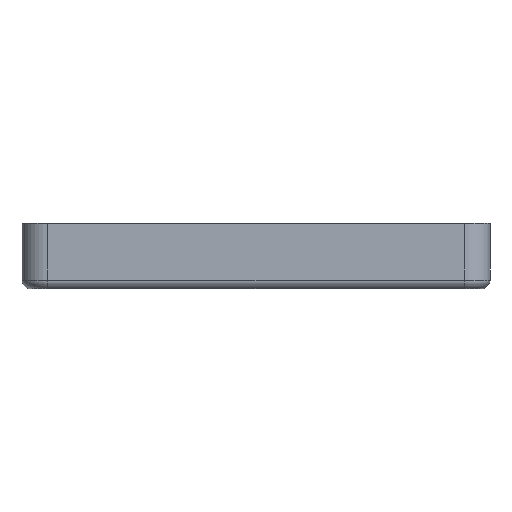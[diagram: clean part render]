
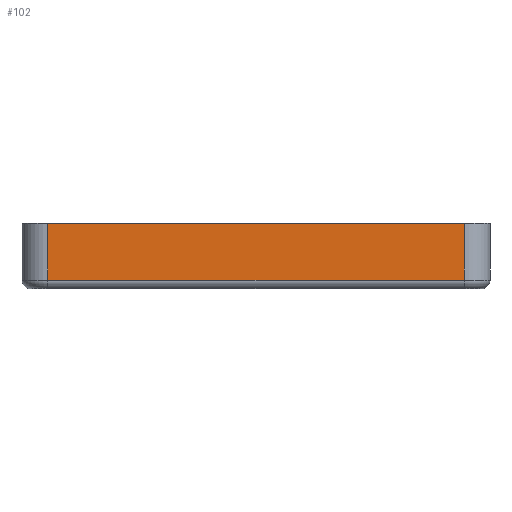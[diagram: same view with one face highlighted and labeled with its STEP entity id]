
A CAD part, left-side view. The second image highlights one B-rep face of the part: STEP entity #102.
In plain terms, the highlighted planar face has unit normal (-1, 0, 0).
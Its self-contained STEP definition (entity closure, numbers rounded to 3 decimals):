
#6 = VECTOR ( 'NONE', #347, 1000. ) ;
#78 = DIRECTION ( 'NONE',  ( 0., 0., -1. ) ) ;
#79 = VERTEX_POINT ( 'NONE', #1089 ) ;
#95 = CARTESIAN_POINT ( 'NONE',  ( -40.7, -14.56, 0.5 ) ) ;
#102 = ADVANCED_FACE ( 'NONE', ( #1275 ), #1065, .F. ) ;
#115 = CARTESIAN_POINT ( 'NONE',  ( -40.7, 9.54, 3.8 ) ) ;
#229 = VECTOR ( 'NONE', #619, 1000. ) ;
#236 = DIRECTION ( 'NONE',  ( 1., 0., 0. ) ) ;
#258 = EDGE_CURVE ( 'NONE', #337, #1438, #386, .T. ) ;
#304 = LINE ( 'NONE', #115, #6 ) ;
#307 = ORIENTED_EDGE ( 'NONE', *, *, #907, .T. ) ;
#337 = VERTEX_POINT ( 'NONE', #1289 ) ;
#347 = DIRECTION ( 'NONE',  ( 0., -1., 0. ) ) ;
#386 = LINE ( 'NONE', #582, #974 ) ;
#545 = ORIENTED_EDGE ( 'NONE', *, *, #1109, .T. ) ;
#550 = LINE ( 'NONE', #611, #229 ) ;
#556 = ORIENTED_EDGE ( 'NONE', *, *, #258, .F. ) ;
#582 = CARTESIAN_POINT ( 'NONE',  ( -40.7, -14.56, 3.8 ) ) ;
#611 = CARTESIAN_POINT ( 'NONE',  ( -40.7, -14.56, 0.5 ) ) ;
#619 = DIRECTION ( 'NONE',  ( 0., -1., 0. ) ) ;
#715 = EDGE_LOOP ( 'NONE', ( #307, #545, #556, #950 ) ) ;
#766 = VECTOR ( 'NONE', #1403, 1000. ) ;
#907 = EDGE_CURVE ( 'NONE', #79, #1490, #1004, .T. ) ;
#950 = ORIENTED_EDGE ( 'NONE', *, *, #1028, .F. ) ;
#967 = DIRECTION ( 'NONE',  ( 0., 0., -1. ) ) ;
#974 = VECTOR ( 'NONE', #78, 1000. ) ;
#1004 = LINE ( 'NONE', #1054, #766 ) ;
#1028 = EDGE_CURVE ( 'NONE', #79, #337, #304, .T. ) ;
#1054 = CARTESIAN_POINT ( 'NONE',  ( -40.7, 9.54, 3.8 ) ) ;
#1065 = PLANE ( 'NONE',  #1492 ) ;
#1089 = CARTESIAN_POINT ( 'NONE',  ( -40.7, 9.54, 3.8 ) ) ;
#1109 = EDGE_CURVE ( 'NONE', #1490, #1438, #550, .T. ) ;
#1275 = FACE_OUTER_BOUND ( 'NONE', #715, .T. ) ;
#1289 = CARTESIAN_POINT ( 'NONE',  ( -40.7, -14.56, 3.8 ) ) ;
#1318 = CARTESIAN_POINT ( 'NONE',  ( -40.7, 9.54, 3.8 ) ) ;
#1403 = DIRECTION ( 'NONE',  ( 0., 0., -1. ) ) ;
#1438 = VERTEX_POINT ( 'NONE', #95 ) ;
#1485 = CARTESIAN_POINT ( 'NONE',  ( -40.7, 9.54, 0.5 ) ) ;
#1490 = VERTEX_POINT ( 'NONE', #1485 ) ;
#1492 = AXIS2_PLACEMENT_3D ( 'NONE', #1318, #236, #967 ) ;
